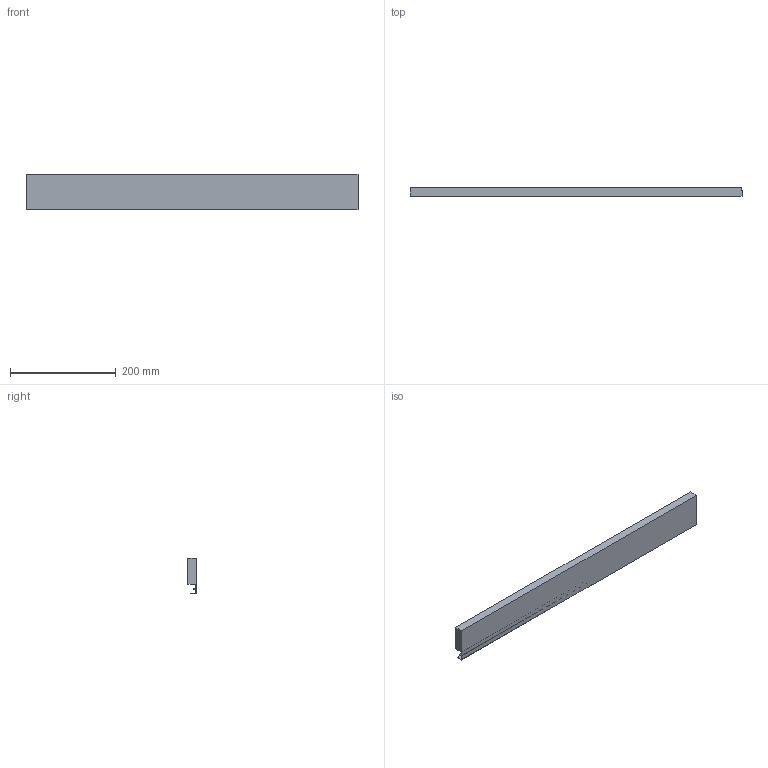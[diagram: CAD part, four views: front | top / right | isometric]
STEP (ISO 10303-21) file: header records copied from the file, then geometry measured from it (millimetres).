
FILE_DESCRIPTION (( 'STEP AP214' ), '1' );
FILE_NAME ('Innenschub-Blendenprofil_KAB750_S16.step', '2010-09-23T12:26:51', ( 'grass' ), ( '' ), 'SwSTEP 2.0', 'SolidWorks 2010', '' );
FILE_SCHEMA (( 'AUTOMOTIVE_DESIGN' ));
Length unit declared in the file: millimetre
Products named in the file (1): Innenschub-Blendenprofil_KAB750_S16
Bounding box: 627 x 15.9 x 67.6 mm (x, y, z)
Volume: 519879.7 mm3; surface area: 124710.4 mm2
Topology: 1 solids, 1 shells, 17 faces, 42 edges, 28 vertices
Faces by surface type: plane 15, cylinder 2
Entity records: 534 total; most frequent: CARTESIAN_POINT 88, ORIENTED_EDGE 84, DIRECTION 82, EDGE_CURVE 42, VECTOR 38, LINE 38, VERTEX_POINT 28, AXIS2_PLACEMENT_3D 22
